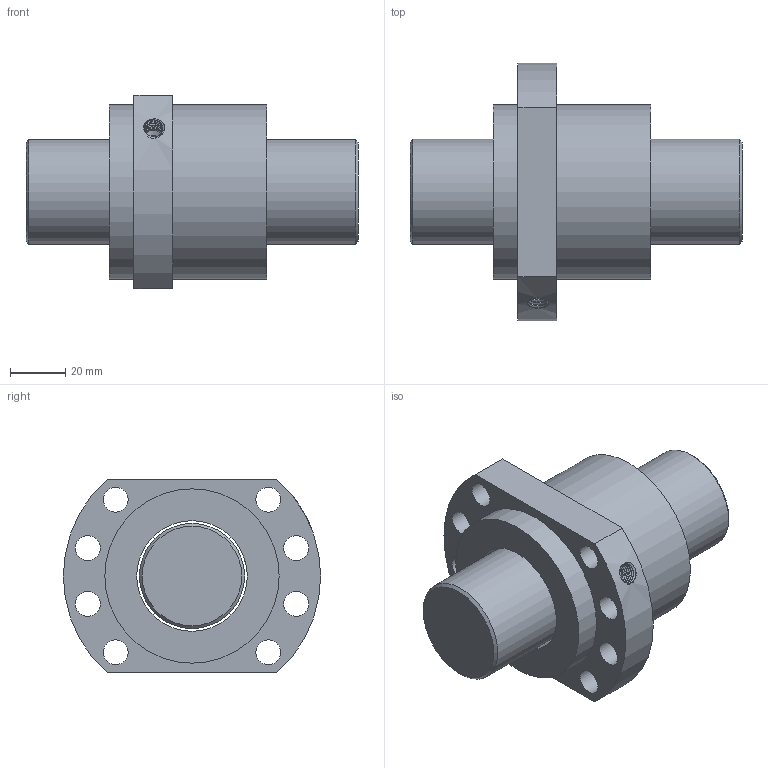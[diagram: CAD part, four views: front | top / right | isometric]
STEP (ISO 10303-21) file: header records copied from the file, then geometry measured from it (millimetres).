
FILE_DESCRIPTION(/* description */ ('Unknown','CAx-IF Rec.Pracs.---Representation and Presentation of Product Manufacturing Information (PMI)---4.0---2014-10-13','CAx-IF Rec.Pracs.---3D Tessellated Geometry---0.4---2014-09-14','2;1'),/* implementation_level */ '2;1');
FILE_NAME(/* name */ 'SFA4010-3.8',/* time_stamp */ '2020-12-08T11:36:22+08:00',/* author */ ('Unknown'),/* organization */ ('Unknown'),/* preprocessor_version */ 'ST-DEVELOPER v16.7',/* originating_system */ 'Solid Edge',/* authorisation */ 'Unknown');
FILE_SCHEMA (('AP242_MANAGED_MODEL_BASED_3D_ENGINEERING_MIM_LF { 1 0 10303 442 1 1 4 }'));
Length unit declared in the file: millimetre
Products named in the file (1): SFA4010-3.8
Bounding box: 120 x 93 x 70 mm (x, y, z)
Volume: 272257.7 mm3; surface area: 47842.2 mm2
Topology: 2 solids, 2 shells, 32 faces, 76 edges, 50 vertices
Faces by surface type: cylinder 18, plane 9, cone 3, bspline 2
Full cylindrical faces by diameter (mm): 4 x1, 6.917 x1, 9 x8, 38 x1, 40 x1, 63 x2
Entity records: 2736 total; most frequent: CARTESIAN_POINT 1976, DIRECTION 146, ORIENTED_EDGE 108, EDGE_LOOP 71, FACE_BOUND 71, AXIS2_PLACEMENT_3D 70, EDGE_CURVE 54, VERTEX_POINT 45
